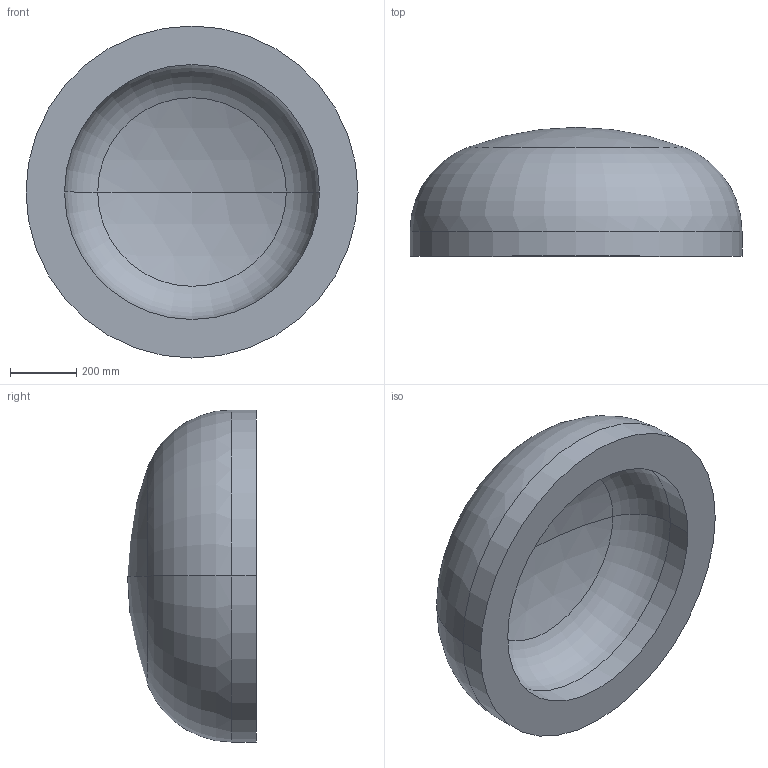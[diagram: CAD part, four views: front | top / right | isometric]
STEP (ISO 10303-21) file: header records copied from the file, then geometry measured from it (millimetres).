
FILE_DESCRIPTION (( 'STEP AP203' ), '1' );
FILE_NAME ('DIN 28013 Korbbogenform_-_Boden DIN 28013 - 1000 x 75 - I - s=116.step', '2016-07-01T08:58:17', ( '' ), ( '' ), 'SwSTEP 2.0', 'SolidWorks 2013', '' );
FILE_SCHEMA (( 'CONFIG_CONTROL_DESIGN' ));
Length unit declared in the file: millimetre
Products named in the file (1): DIN 28013 Korbbogenform_-_Boden DIN 28013 - 1000 x 75 - I - s=116
Bounding box: 1000 x 388.02 x 1000 mm (x, y, z)
Volume: 133787147.8 mm3; surface area: 2657008.3 mm2
Topology: 1 solids, 1 shells, 13 faces, 24 edges, 14 vertices
Faces by surface type: torus 4, cylinder 4, sphere 4, plane 1
Entity records: 407 total; most frequent: DIRECTION 72, CARTESIAN_POINT 52, ORIENTED_EDGE 48, AXIS2_PLACEMENT_3D 34, EDGE_CURVE 24, CIRCLE 20, EDGE_LOOP 14, VERTEX_POINT 14
